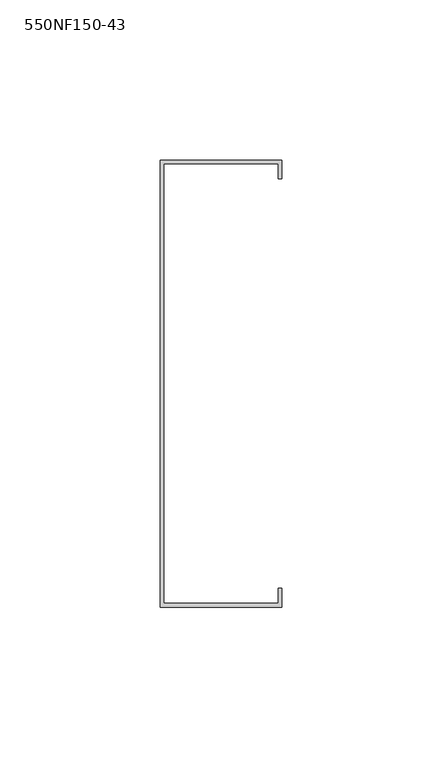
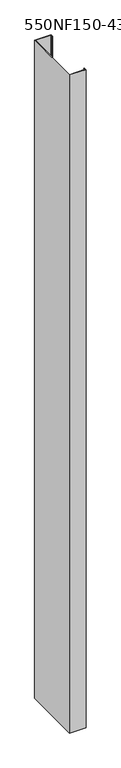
"""IFC4 building model written with IfcOpenShell, lengths in millimetres: column geometry, BIMSF-SSMA-S-Column : 550NF150-43."""

from ifc_helpers import new_model, si_unit, frame, origin, place, context, project, spatial, polyline, outline, extrude, source, transform, mapped, element, save


def column_550nf150_43_ea748249(model_context):
    return source(origin(), model_context, "Body", "SweptSolid", [
        extrude(outline(polyline([(-11.9977877, -80.5871249), (-11.9977877, 59.1128751), (26.1022123, 59.1128751), (26.1022123, 53.1879908), (24.952528, 53.1879908), (24.952528, 57.9631908), (-10.8481035, 57.9631908), (-10.8481035, -79.4374407), (24.952528, -79.4374407), (24.952528, -74.6622407), (26.1022123, -74.6622407), (26.1022123, -80.5871249), (-11.9977877, -80.5871249)])), frame((0.0, 0.0, 5525.3929688), z_axis=(0.0, 0.0, 1.0), x_axis=(1.0, 0.0, 0.0)), (0.0, 0.0, 1.0), 1610.5812991),
    ])


if __name__ == "__main__":
    model = new_model("IFC4")
    model_context = context("Model", 3, world=origin())
    ifc_project = project(units=[si_unit("LENGTHUNIT", "METRE", prefix="MILLI")], contexts=[model_context])
    site = spatial("IfcSite", under=ifc_project)
    building = spatial("IfcBuilding", under=site)
    placement = place(None, origin())
    column_550nf150_43_shape = column_550nf150_43_ea748249(model_context)
    element("IfcColumn", 1, ObjectType="BIMSF-SSMA-S-Column : 550NF150-43", at=placement, inside=building, context=model_context, shape_type="MappedRepresentation", body=[
        mapped(column_550nf150_43_shape, transform((0.0, 0.0, 0.0), x_axis=(1.0, 0.0, 0.0), y_axis=(0.0, 1.0, 0.0), z_axis=(0.0, 0.0, 1.0))),
    ])
    save(model, "model.ifc")
